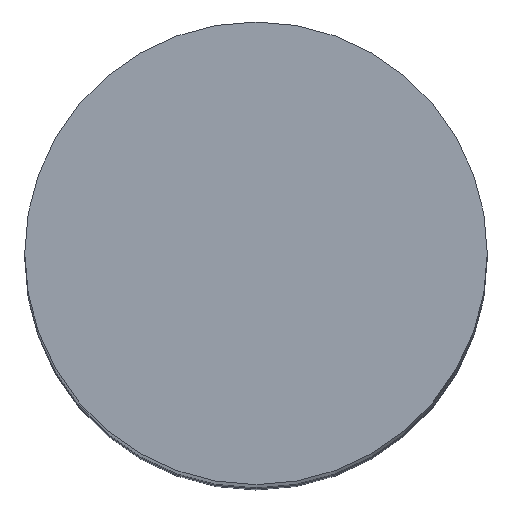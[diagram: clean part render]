
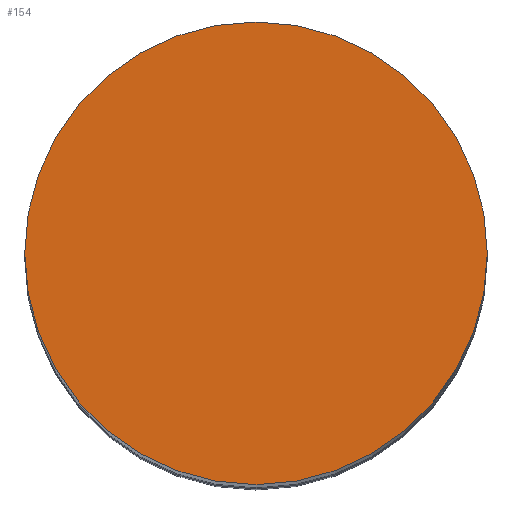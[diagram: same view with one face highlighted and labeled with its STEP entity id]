
A CAD part, top view. The second image highlights one B-rep face of the part: STEP entity #154.
In plain terms, the highlighted planar face has unit normal (0, 0, 1).
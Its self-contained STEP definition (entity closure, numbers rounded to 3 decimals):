
#135 = VERTEX_POINT('',#136);
#136 = CARTESIAN_POINT('',(12.,0.,160.));
#142 = EDGE_CURVE('',#135,#135,#143,.T.);
#143 = CIRCLE('',#144,12.);
#144 = AXIS2_PLACEMENT_3D('',#145,#146,#147);
#145 = CARTESIAN_POINT('',(0.,0.,160.));
#146 = DIRECTION('',(0.,0.,1.));
#147 = DIRECTION('',(1.,0.,-0.));
#154 = ADVANCED_FACE('',(#155),#158,.T.);
#155 = FACE_BOUND('',#156,.T.);
#156 = EDGE_LOOP('',(#157));
#157 = ORIENTED_EDGE('',*,*,#142,.T.);
#158 = PLANE('',#159);
#159 = AXIS2_PLACEMENT_3D('',#160,#161,#162);
#160 = CARTESIAN_POINT('',(0.,0.,160.));
#161 = DIRECTION('',(0.,0.,1.));
#162 = DIRECTION('',(1.,0.,-0.));
